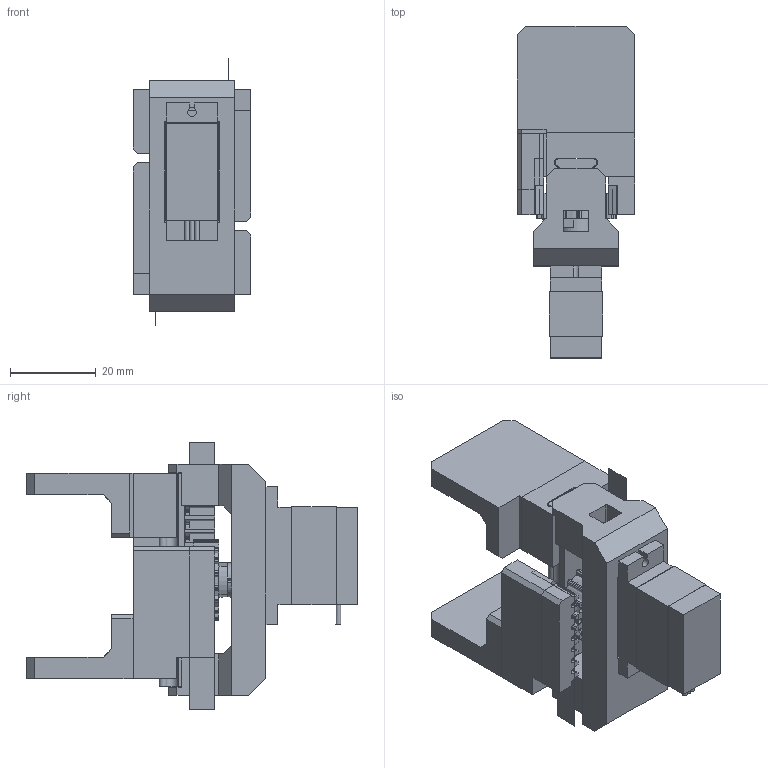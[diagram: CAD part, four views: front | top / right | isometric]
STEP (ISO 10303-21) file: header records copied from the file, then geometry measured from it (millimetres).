
FILE_DESCRIPTION(/* description */ ('','CAx-IF Rec.Pracs.---Representation and Presentation of Product Manufacturing Information (PMI)---4.0---2014-10-13'),/* implementation_level */ '2;1');
FILE_NAME(/* name */ 'Assieme_pinza_mg90s.stp',/* time_stamp */ '2026-03-29T08:44:19+02:00',/* author */ ('R5800u'),/* organization */ (''),/* preprocessor_version */ 'ST-DEVELOPER v20',/* originating_system */ 'Autodesk Inventor 2025',/* authorisation */ '');
FILE_SCHEMA (('AP242_MANAGED_MODEL_BASED_3D_ENGINEERING_MIM_LF { 1 0 10303 442 1 1 4 }'));
Length unit declared in the file: millimetre
Products named in the file (9): Assieme1; guida; MG90_ldb; MG90S ARM; pignone_17mm; cremagliera2; suppoerto_guida; cremagliera1; dito
Assembly tree (9 placements, depth 2):
  Assieme1
    guida
    MG90_ldb
    MG90S ARM
    pignone_17mm
    cremagliera2
    suppoerto_guida
    cremagliera1
    dito  x2
Bounding box: 27.5 x 77.58 x 62.39 mm (x, y, z)
Volume: 39522.1 mm3; surface area: 23229.4 mm2
Topology: 9 solids, 12 shells, 794 faces, 2227 edges, 1483 vertices
Faces by surface type: plane 496, cylinder 213, bspline 85
Full cylindrical faces by diameter (mm): 1.167 x3, 1.7 x2, 2 x18, 2.2 x13, 2.5 x1, 2.7 x3, 4 x6, 4.4 x2, 5 x1, 7 x1, 17 x1
Entity records: 33544 total; most frequent: CARTESIAN_POINT 10910, ORIENTED_EDGE 4324, DIRECTION 4142, EDGE_CURVE 2167, LINE 1502, VECTOR 1502, VERTEX_POINT 1443, AXIS2_PLACEMENT_3D 1320
